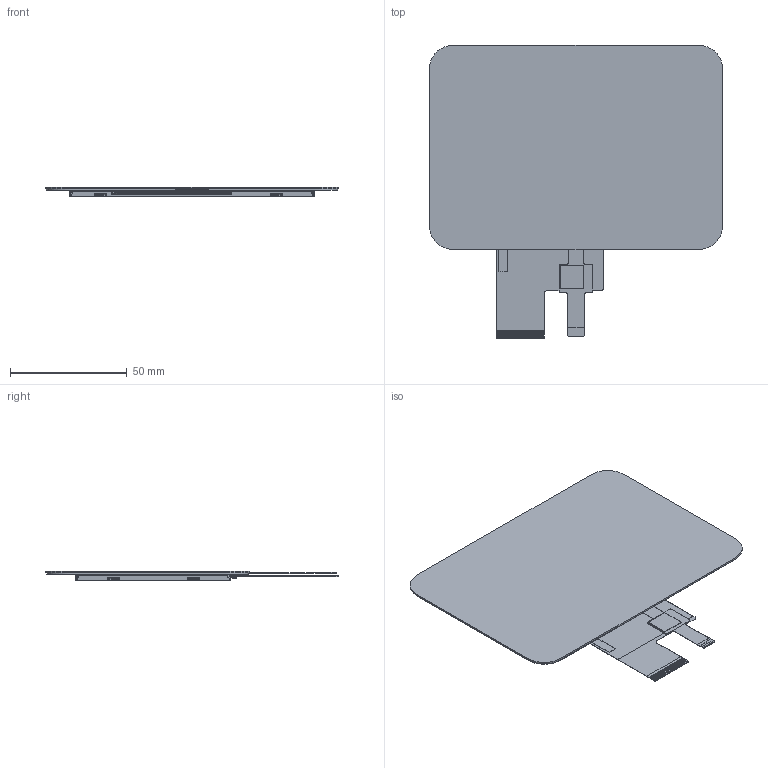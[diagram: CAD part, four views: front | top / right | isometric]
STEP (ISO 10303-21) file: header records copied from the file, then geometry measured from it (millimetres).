
FILE_DESCRIPTION (( 'STEP AP214' ), '1' );
FILE_NAME ('ctm800480t261_asm.STEP', '2020-05-11T15:55:29', ( '' ), ( '' ), 'SwSTEP 2.0', 'SolidWorks 2019', '' );
FILE_SCHEMA (( 'AUTOMOTIVE_DESIGN' ));
Length unit declared in the file: millimetre
Products named in the file (1): ctm800480t261_asm
Bounding box: 125.5 x 125.36 x 4.18 mm (x, y, z)
Volume: 31986.8 mm3; surface area: 165999.9 mm2
Topology: 36 solids, 36 shells, 1218 faces, 3432 edges, 2282 vertices
Faces by surface type: plane 1140, cylinder 78
Entity records: 52525 total; most frequent: CARTESIAN_POINT 7111, ORIENTED_EDGE 6864, DIRECTION 5980, EDGE_CURVE 3432, LINE 3270, VECTOR 3270, VERTEX_POINT 2282, AXIS2_PLACEMENT_3D 1355
